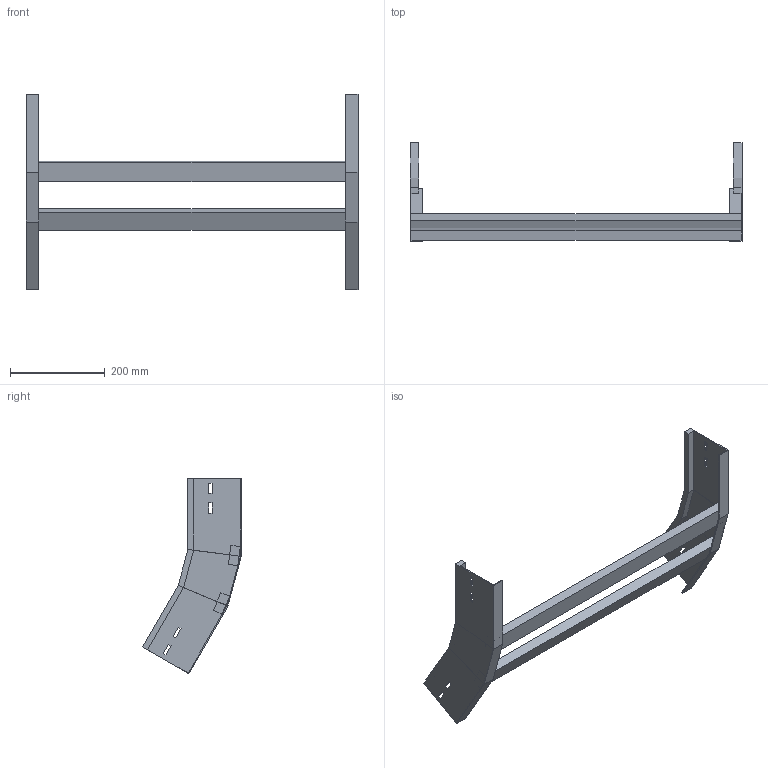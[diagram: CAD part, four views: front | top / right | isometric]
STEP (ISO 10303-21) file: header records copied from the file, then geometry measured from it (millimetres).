
FILE_DESCRIPTION (( 'STEP AP214' ), '1' );
FILE_NAME ('A2X32B3J700XX.step', '2025-03-20T09:59:28', ( '' ), ( '' ), 'SwSTEP 2.0', 'SolidWorks 2023', '' );
FILE_SCHEMA (( 'AUTOMOTIVE_DESIGN' ));
Length unit declared in the file: millimetre
Products named in the file (3): LONGH.SALITA_30°_H112.5_R300; TRAVERSINO_700; A2X32B3J700XX
Assembly tree (4 placements, depth 2):
  A2X32B3J700XX
    LONGH.SALITA_30°_H112.5_R300  x2
    TRAVERSINO_700  x2
Bounding box: 700 x 207.73 x 411.66 mm (x, y, z)
Volume: 1498668.9 mm3; surface area: 426858 mm2
Topology: 4 solids, 4 shells, 96 faces, 232 edges, 144 vertices
Faces by surface type: plane 96
Entity records: 1472 total; most frequent: CARTESIAN_POINT 243, ORIENTED_EDGE 232, DIRECTION 226, LINE 116, EDGE_CURVE 116, VECTOR 116, VERTEX_POINT 72, EDGE_LOOP 56
